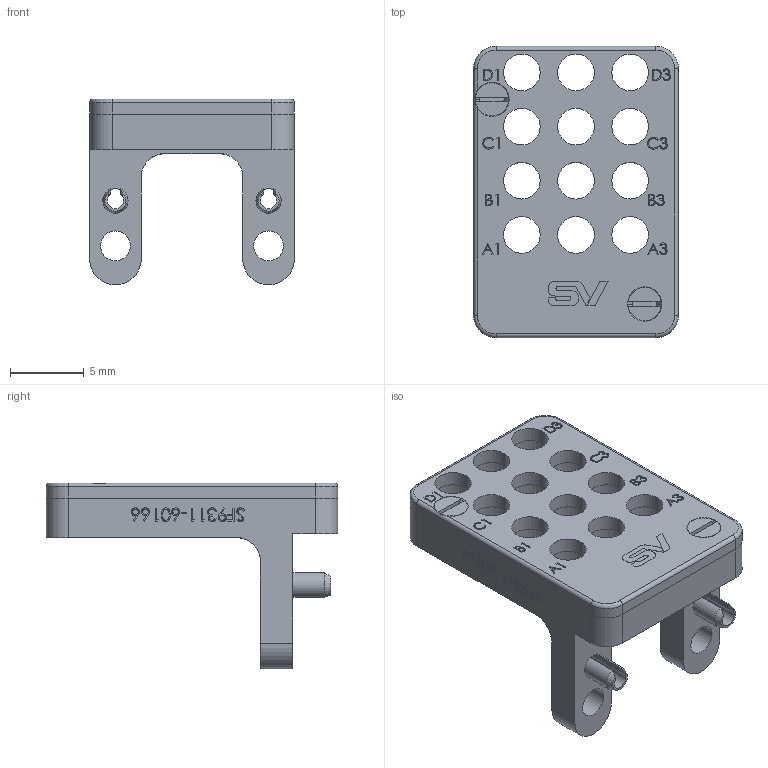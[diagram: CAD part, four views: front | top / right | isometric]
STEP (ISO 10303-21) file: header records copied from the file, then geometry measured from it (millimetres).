
FILE_DESCRIPTION (( 'STEP AP214' ), '1' );
FILE_NAME ('SF9311-60166.STEP', '2019-09-13T16:47:28', ( '' ), ( '' ), 'SwSTEP 2.0', 'SolidWorks 2018', '' );
FILE_SCHEMA (( 'AUTOMOTIVE_DESIGN' ));
Length unit declared in the file: inch
Products named in the file (5): SF9311-60166; 082-80-006; 91781A410_18-8 STAINLESS STEEL SLOTTED FLAT HEAD SCREW_91781A410; 071-93-078_WITH MARKING; 071-93-079_WITH MARKING
Assembly tree (6 placements, depth 2):
  SF9311-60166
    071-93-078_WITH MARKING
    071-93-079_WITH MARKING
    91781A410_18-8 STAINLESS STEEL SLOTTED FLAT HEAD SCREW_91781A410  x2
    082-80-006  x2
Bounding box: 13.92 x 19.81 x 12.64 mm (x, y, z)
Volume: 851.3 mm3; surface area: 1819.6 mm2
Topology: 6 solids, 6 shells, 839 faces, 2220 edges, 1462 vertices
Faces by surface type: plane 325, bspline 260, cylinder 194, cone 52, torus 8
Entity records: 42327 total; most frequent: CARTESIAN_POINT 21684, ORIENTED_EDGE 4086, DIRECTION 2782, EDGE_CURVE 2043, VERTEX_POINT 1346, VECTOR 1124, LINE 1124, EDGE_LOOP 907
